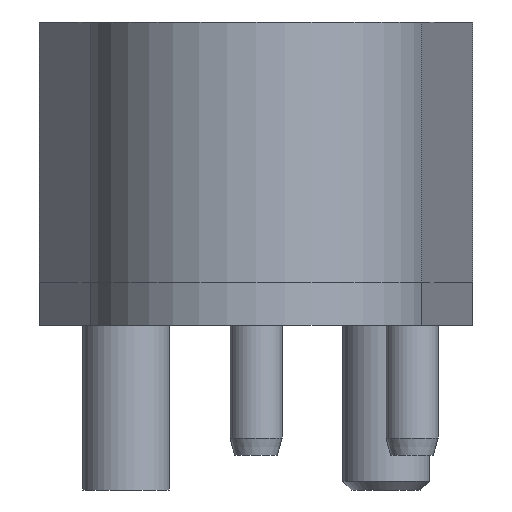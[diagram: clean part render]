
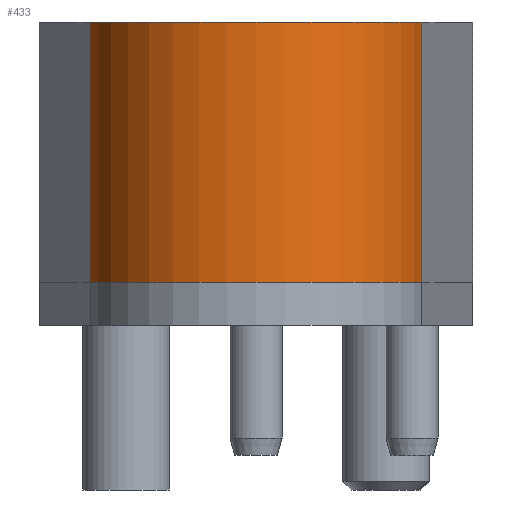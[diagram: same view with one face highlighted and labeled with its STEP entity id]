
A CAD part, left-side view. The second image highlights one B-rep face of the part: STEP entity #433.
In plain terms, the highlighted cylindrical face has radius 19.5 mm (diameter 39 mm), a partial arc.
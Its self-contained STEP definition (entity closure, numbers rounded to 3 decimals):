
#119=CYLINDRICAL_SURFACE('',#2620,19.5);
#271=CIRCLE('',#2618,19.5);
#272=CIRCLE('',#2619,19.5);
#433=ADVANCED_FACE('',(#651),#119,.T.);
#651=FACE_OUTER_BOUND('',#789,.T.);
#789=EDGE_LOOP('',(#1073,#1074,#1075,#1076));
#1073=ORIENTED_EDGE('',*,*,#1913,.T.);
#1074=ORIENTED_EDGE('',*,*,#1914,.F.);
#1075=ORIENTED_EDGE('',*,*,#1915,.F.);
#1076=ORIENTED_EDGE('',*,*,#1916,.T.);
#1669=VERTEX_POINT('',#3803);
#1670=VERTEX_POINT('',#3804);
#1671=VERTEX_POINT('',#3806);
#1672=VERTEX_POINT('',#3808);
#1913=EDGE_CURVE('',#1669,#1670,#2239,.T.);
#1914=EDGE_CURVE('',#1671,#1670,#271,.T.);
#1915=EDGE_CURVE('',#1672,#1671,#2240,.T.);
#1916=EDGE_CURVE('',#1672,#1669,#272,.T.);
#2239=LINE('',#3802,#2429);
#2240=LINE('',#3807,#2430);
#2429=VECTOR('',#3015,1.);
#2430=VECTOR('',#3018,1.);
#2618=AXIS2_PLACEMENT_3D('',#3805,#3016,#3017);
#2619=AXIS2_PLACEMENT_3D('',#3809,#3019,#3020);
#2620=AXIS2_PLACEMENT_3D('',#3810,#3021,#3022);
#3015=DIRECTION('',(0.,0.,1.));
#3016=DIRECTION('',(0.,0.,1.));
#3017=DIRECTION('',(0.,1.,0.));
#3018=DIRECTION('',(0.,0.,1.));
#3019=DIRECTION('',(0.,0.,1.));
#3020=DIRECTION('',(0.,1.,0.));
#3021=DIRECTION('',(0.,0.,1.));
#3022=DIRECTION('',(-1.,0.,0.));
#3802=CARTESIAN_POINT('',(-3.771,-19.132,5.));
#3803=CARTESIAN_POINT('',(-3.771,-19.132,5.));
#3804=CARTESIAN_POINT('',(-3.771,-19.132,35.));
#3805=CARTESIAN_POINT('',(0.,0.,35.));
#3806=CARTESIAN_POINT('',(-3.771,19.132,35.));
#3807=CARTESIAN_POINT('',(-3.771,19.132,5.));
#3808=CARTESIAN_POINT('',(-3.771,19.132,5.));
#3809=CARTESIAN_POINT('',(0.,0.,5.));
#3810=CARTESIAN_POINT('',(0.,0.,0.));
